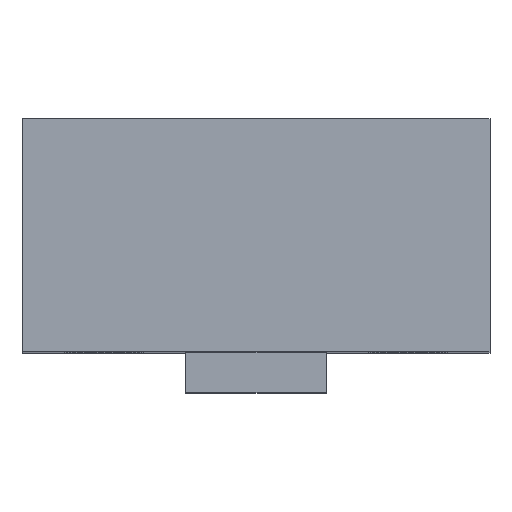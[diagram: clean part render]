
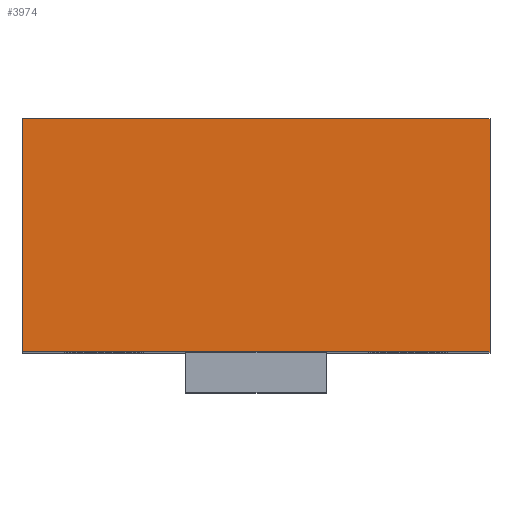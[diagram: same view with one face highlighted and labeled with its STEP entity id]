
A CAD part, top view. The second image highlights one B-rep face of the part: STEP entity #3974.
In plain terms, the highlighted planar face has unit normal (0, 0, 1).
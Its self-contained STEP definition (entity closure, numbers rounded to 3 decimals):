
#180 = CARTESIAN_POINT ( 'NONE',  ( -49.8, 58.4, 80.2 ) ) ;
#181 = DIRECTION ( 'NONE',  ( 0., -1., 0. ) ) ;
#182 = VECTOR ( 'NONE', #181, 1000. ) ;
#183 = CARTESIAN_POINT ( 'NONE',  ( -49.8, 58.4, 80.2 ) ) ;
#184 = LINE ( 'NONE', #183, #182 ) ;
#185 = CARTESIAN_POINT ( 'NONE',  ( -49.8, 8.6, 80.2 ) ) ;
#375 = DIRECTION ( 'NONE',  ( 1., 0., 0. ) ) ;
#376 = DIRECTION ( 'NONE',  ( 0., 0., 1. ) ) ;
#377 = AXIS2_PLACEMENT_3D ( 'NONE', #378, #376, #375 ) ;
#378 = CARTESIAN_POINT ( 'NONE',  ( -49.8, 8.6, 80.2 ) ) ;
#379 = PLANE ( 'NONE',  #377 ) ;
#380 = FACE_OUTER_BOUND ( 'NONE', #3975, .T. ) ;
#1235 = DIRECTION ( 'NONE',  ( 1., 0., 0. ) ) ;
#1236 = VECTOR ( 'NONE', #1235, 1000. ) ;
#1237 = CARTESIAN_POINT ( 'NONE',  ( -49.8, 8.6, 80.2 ) ) ;
#1238 = LINE ( 'NONE', #1237, #1236 ) ;
#2436 = DIRECTION ( 'NONE',  ( -1., 0., 0. ) ) ;
#2437 = VECTOR ( 'NONE', #2436, 1000. ) ;
#2438 = CARTESIAN_POINT ( 'NONE',  ( 50., 58.4, 80.2 ) ) ;
#2443 = LINE ( 'NONE', #2438, #2437 ) ;
#2514 = CARTESIAN_POINT ( 'NONE',  ( 50., 8.6, 80.2 ) ) ;
#2515 = DIRECTION ( 'NONE',  ( 0., 1., 0. ) ) ;
#2516 = VECTOR ( 'NONE', #2515, 1000. ) ;
#2517 = CARTESIAN_POINT ( 'NONE',  ( 50., 8.6, 80.2 ) ) ;
#2518 = LINE ( 'NONE', #2517, #2516 ) ;
#2519 = CARTESIAN_POINT ( 'NONE',  ( 50., 58.4, 80.2 ) ) ;
#3640 = VERTEX_POINT ( 'NONE', #2519 ) ;
#3642 = EDGE_CURVE ( 'NONE', #3643, #3640, #2518, .T. ) ;
#3643 = VERTEX_POINT ( 'NONE', #2514 ) ;
#3714 = EDGE_CURVE ( 'NONE', #3640, #3824, #2443, .T. ) ;
#3821 = VERTEX_POINT ( 'NONE', #185 ) ;
#3823 = EDGE_CURVE ( 'NONE', #3824, #3821, #184, .T. ) ;
#3824 = VERTEX_POINT ( 'NONE', #180 ) ;
#3952 = ORIENTED_EDGE ( 'NONE', *, *, #3714, .T. ) ;
#3953 = ORIENTED_EDGE ( 'NONE', *, *, #3823, .T. ) ;
#3974 = ADVANCED_FACE ( 'NONE', ( #380 ), #379, .T. ) ;
#3975 = EDGE_LOOP ( 'NONE', ( #3976, #3977, #3952, #3953 ) ) ;
#3976 = ORIENTED_EDGE ( 'NONE', *, *, #4571, .T. ) ;
#3977 = ORIENTED_EDGE ( 'NONE', *, *, #3642, .T. ) ;
#4571 = EDGE_CURVE ( 'NONE', #3821, #3643, #1238, .T. ) ;
